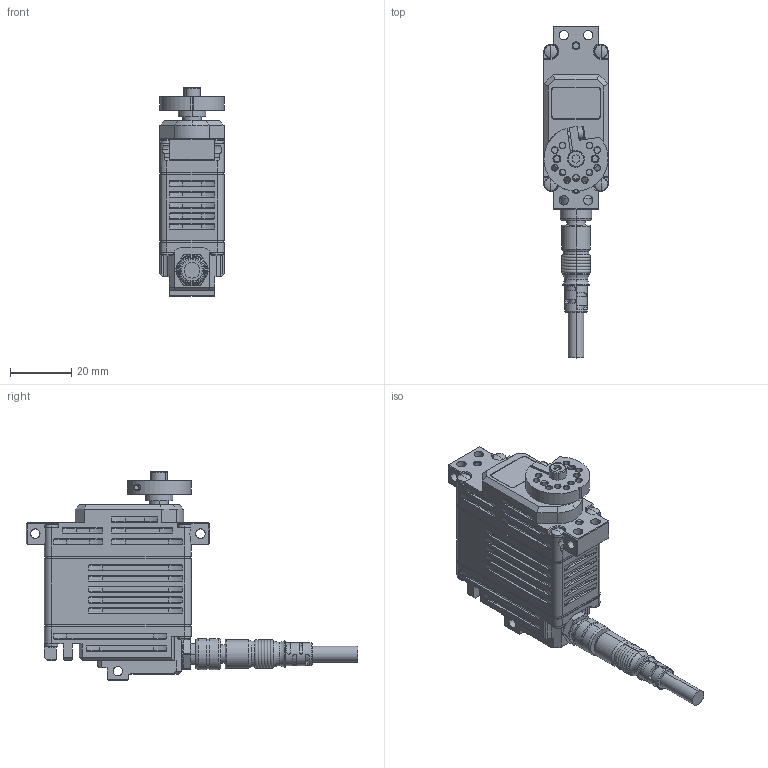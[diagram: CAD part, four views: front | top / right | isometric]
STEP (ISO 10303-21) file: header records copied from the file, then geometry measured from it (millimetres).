
FILE_DESCRIPTION (( 'STEP AP203' ), '1' );
FILE_NAME ('BLA21-06U-A02(3D).STEP', '2022-12-06T07:18:37', ( '' ), ( '' ), 'SwSTEP 2.0', 'SolidWorks 2022', '' );
FILE_SCHEMA (( 'CONFIG_CONTROL_DESIGN' ));
Length unit declared in the file: millimetre
Products named in the file (6): HORN; SCREW M2x6; BLA21-06U-A02; SCREW M3x5; BLA21-06U-A02(3D); CABLE
Assembly tree (5 placements, depth 2):
  BLA21-06U-A02(3D)
    BLA21-06U-A02
    HORN
    SCREW M2x6
    SCREW M3x5
    CABLE
Bounding box: 21 x 108.5 x 68.3 mm (x, y, z)
Volume: 53070.5 mm3; surface area: 15731.5 mm2
Topology: 5 solids, 5 shells, 997 faces, 2462 edges, 1520 vertices
Faces by surface type: plane 383, cylinder 355, torus 122, cone 101, bspline 36
Entity records: 31616 total; most frequent: CARTESIAN_POINT 7379, DIRECTION 5032, ORIENTED_EDGE 4888, EDGE_CURVE 2444, AXIS2_PLACEMENT_3D 1885, VERTEX_POINT 1520, LINE 1262, VECTOR 1262
